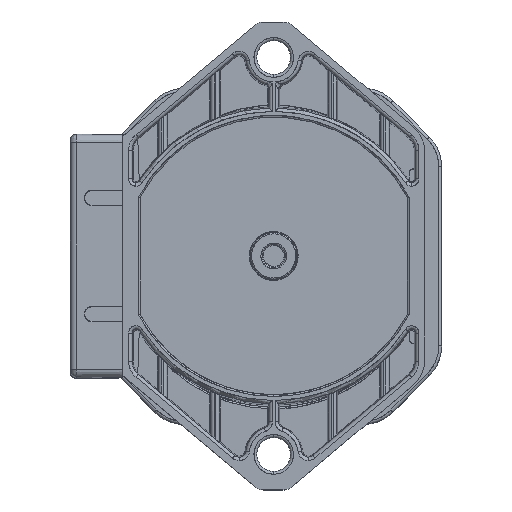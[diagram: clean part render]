
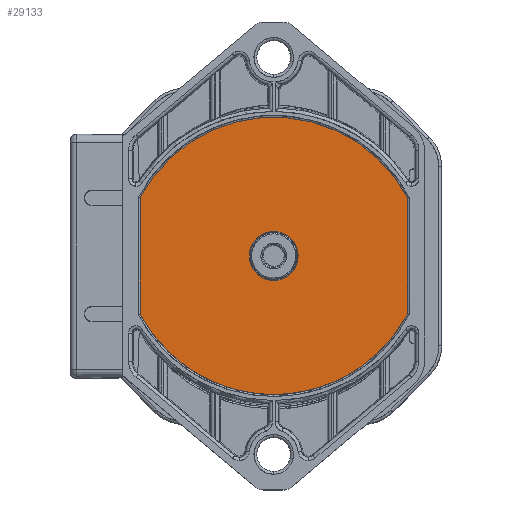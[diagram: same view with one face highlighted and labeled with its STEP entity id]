
A CAD part, top view. The second image highlights one B-rep face of the part: STEP entity #29133.
In plain terms, the highlighted planar face has unit normal (0, 0, 1).
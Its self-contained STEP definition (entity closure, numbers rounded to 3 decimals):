
#152=FACE_BOUND('',#4672,.T.);
#677=B_SPLINE_CURVE_WITH_KNOTS('',3,(#95243,#95244,#95245,#95246,#95247,
#95248,#95249,#95250,#95251,#95252,#95253,#95254,#95255,#95256,#95257,#95258,
#95259,#95260,#95261,#95262,#95263,#95264,#95265,#95266,#95267,#95268,#95269,
#95270,#95271,#95272,#95273,#95274,#95275,#95276,#95277,#95278,#95279,#95280,
#95281,#95282,#95283,#95284,#95285,#95286,#95287,#95288,#95289,#95290,#95291),
 .UNSPECIFIED.,.F.,.F.,(4,3,3,3,3,3,3,3,3,3,3,3,3,3,3,3,4),(0.,0.063,0.125,
0.188,0.25,0.313,0.375,0.438,0.5,0.563,0.625,0.688,0.75,0.813,0.875,
0.938,1.),.UNSPECIFIED.);
#678=B_SPLINE_CURVE_WITH_KNOTS('',3,(#95292,#95293,#95294,#95295,#95296,
#95297,#95298,#95299,#95300,#95301,#95302,#95303,#95304,#95305,#95306,#95307,
#95308,#95309,#95310,#95311,#95312,#95313,#95314,#95315,#95316,#95317,#95318,
#95319,#95320,#95321,#95322,#95323,#95324,#95325,#95326,#95327,#95328,#95329,
#95330,#95331,#95332,#95333,#95334,#95335,#95336,#95337,#95338,#95339,#95340),
 .UNSPECIFIED.,.F.,.F.,(4,3,3,3,3,3,3,3,3,3,3,3,3,3,3,3,4),(0.,0.063,0.125,
0.188,0.25,0.313,0.375,0.438,0.5,0.563,0.625,0.688,0.75,0.813,0.875,
0.938,1.),.UNSPECIFIED.);
#1830=PLANE('',#32942);
#3584=FACE_OUTER_BOUND('',#4671,.T.);
#4671=EDGE_LOOP('',(#25599,#25600,#25601,#25602));
#4672=EDGE_LOOP('',(#25603,#25604));
#6549=LINE('',#95235,#9371);
#6550=LINE('',#95239,#9372);
#9371=VECTOR('',#37959,20.);
#9372=VECTOR('',#37962,20.);
#11524=CIRCLE('',#32943,26.);
#11525=CIRCLE('',#32944,26.);
#14885=VERTEX_POINT('',#95233);
#14886=VERTEX_POINT('',#95234);
#14887=VERTEX_POINT('',#95236);
#14888=VERTEX_POINT('',#95238);
#14889=VERTEX_POINT('',#95241);
#14890=VERTEX_POINT('',#95242);
#20242=EDGE_CURVE('',#14885,#14886,#6549,.T.);
#20243=EDGE_CURVE('',#14886,#14887,#11524,.T.);
#20244=EDGE_CURVE('',#14887,#14888,#6550,.T.);
#20245=EDGE_CURVE('',#14888,#14885,#11525,.T.);
#20246=EDGE_CURVE('',#14889,#14890,#677,.T.);
#20247=EDGE_CURVE('',#14890,#14889,#678,.T.);
#25599=ORIENTED_EDGE('',*,*,#20242,.T.);
#25600=ORIENTED_EDGE('',*,*,#20243,.T.);
#25601=ORIENTED_EDGE('',*,*,#20244,.T.);
#25602=ORIENTED_EDGE('',*,*,#20245,.T.);
#25603=ORIENTED_EDGE('',*,*,#20246,.T.);
#25604=ORIENTED_EDGE('',*,*,#20247,.T.);
#29133=ADVANCED_FACE('',(#3584,#152),#1830,.T.);
#32942=AXIS2_PLACEMENT_3D('',#95232,#37957,#37958);
#32943=AXIS2_PLACEMENT_3D('',#95237,#37960,#37961);
#32944=AXIS2_PLACEMENT_3D('',#95240,#37963,#37964);
#37957=DIRECTION('center_axis',(0.,0.,1.));
#37958=DIRECTION('ref_axis',(1.,0.,0.));
#37959=DIRECTION('',(0.,-1.,0.));
#37960=DIRECTION('center_axis',(0.,0.,1.));
#37961=DIRECTION('ref_axis',(1.,0.,0.));
#37962=DIRECTION('',(0.,1.,0.));
#37963=DIRECTION('center_axis',(0.,0.,1.));
#37964=DIRECTION('ref_axis',(1.,0.,0.));
#95232=CARTESIAN_POINT('Origin',(-23.,0.,44.7));
#95233=CARTESIAN_POINT('',(-23.,10.,44.7));
#95234=CARTESIAN_POINT('',(-23.,-10.,44.7));
#95235=CARTESIAN_POINT('',(-23.,10.,44.7));
#95236=CARTESIAN_POINT('',(23.,-10.,44.7));
#95237=CARTESIAN_POINT('Origin',(0.,2.124,44.7));
#95238=CARTESIAN_POINT('',(23.,10.,44.7));
#95239=CARTESIAN_POINT('',(23.,-10.,44.7));
#95240=CARTESIAN_POINT('Origin',(0.,-2.124,44.7));
#95241=CARTESIAN_POINT('',(0.,-4.2,44.7));
#95242=CARTESIAN_POINT('',(0.,4.2,44.7));
#95243=CARTESIAN_POINT('Ctrl Pts',(0.,-4.2,44.7));
#95244=CARTESIAN_POINT('Ctrl Pts',(-0.276,-4.2,
44.7));
#95245=CARTESIAN_POINT('Ctrl Pts',(-0.549,-4.173,
44.7));
#95246=CARTESIAN_POINT('Ctrl Pts',(-0.819,-4.119,
44.7));
#95247=CARTESIAN_POINT('Ctrl Pts',(-1.09,-4.066,
44.7));
#95248=CARTESIAN_POINT('Ctrl Pts',(-1.352,-3.986,44.7));
#95249=CARTESIAN_POINT('Ctrl Pts',(-1.607,-3.88,44.7));
#95250=CARTESIAN_POINT('Ctrl Pts',(-1.862,-3.775,
44.7));
#95251=CARTESIAN_POINT('Ctrl Pts',(-2.104,-3.646,44.7));
#95252=CARTESIAN_POINT('Ctrl Pts',(-2.333,-3.492,44.7));
#95253=CARTESIAN_POINT('Ctrl Pts',(-2.562,-3.339,44.7));
#95254=CARTESIAN_POINT('Ctrl Pts',(-2.775,-3.165,44.7));
#95255=CARTESIAN_POINT('Ctrl Pts',(-2.97,-2.97,44.7));
#95256=CARTESIAN_POINT('Ctrl Pts',(-3.165,-2.775,
44.7));
#95257=CARTESIAN_POINT('Ctrl Pts',(-3.339,-2.563,44.7));
#95258=CARTESIAN_POINT('Ctrl Pts',(-3.492,-2.333,44.7));
#95259=CARTESIAN_POINT('Ctrl Pts',(-3.645,-2.104,
44.7));
#95260=CARTESIAN_POINT('Ctrl Pts',(-3.775,-1.862,
44.7));
#95261=CARTESIAN_POINT('Ctrl Pts',(-3.88,-1.607,44.7));
#95262=CARTESIAN_POINT('Ctrl Pts',(-3.986,-1.353,
44.7));
#95263=CARTESIAN_POINT('Ctrl Pts',(-4.065,-1.09,
44.7));
#95264=CARTESIAN_POINT('Ctrl Pts',(-4.119,-0.819,44.7));
#95265=CARTESIAN_POINT('Ctrl Pts',(-4.173,-0.549,44.7));
#95266=CARTESIAN_POINT('Ctrl Pts',(-4.2,-0.276,44.7));
#95267=CARTESIAN_POINT('Ctrl Pts',(-4.2,0.,44.7));
#95268=CARTESIAN_POINT('Ctrl Pts',(-4.2,0.275,44.7));
#95269=CARTESIAN_POINT('Ctrl Pts',(-4.173,0.549,44.7));
#95270=CARTESIAN_POINT('Ctrl Pts',(-4.119,0.819,44.7));
#95271=CARTESIAN_POINT('Ctrl Pts',(-4.066,1.09,44.7));
#95272=CARTESIAN_POINT('Ctrl Pts',(-3.986,1.352,44.7));
#95273=CARTESIAN_POINT('Ctrl Pts',(-3.88,1.607,44.7));
#95274=CARTESIAN_POINT('Ctrl Pts',(-3.775,1.862,44.7));
#95275=CARTESIAN_POINT('Ctrl Pts',(-3.646,2.104,44.7));
#95276=CARTESIAN_POINT('Ctrl Pts',(-3.492,2.333,44.7));
#95277=CARTESIAN_POINT('Ctrl Pts',(-3.339,2.562,44.7));
#95278=CARTESIAN_POINT('Ctrl Pts',(-3.165,2.775,44.7));
#95279=CARTESIAN_POINT('Ctrl Pts',(-2.97,2.97,44.7));
#95280=CARTESIAN_POINT('Ctrl Pts',(-2.775,3.165,44.7));
#95281=CARTESIAN_POINT('Ctrl Pts',(-2.563,3.339,44.7));
#95282=CARTESIAN_POINT('Ctrl Pts',(-2.333,3.492,44.7));
#95283=CARTESIAN_POINT('Ctrl Pts',(-2.104,3.645,44.7));
#95284=CARTESIAN_POINT('Ctrl Pts',(-1.862,3.775,44.7));
#95285=CARTESIAN_POINT('Ctrl Pts',(-1.607,3.88,44.7));
#95286=CARTESIAN_POINT('Ctrl Pts',(-1.353,3.986,44.7));
#95287=CARTESIAN_POINT('Ctrl Pts',(-1.09,4.065,44.7));
#95288=CARTESIAN_POINT('Ctrl Pts',(-0.819,4.119,
44.7));
#95289=CARTESIAN_POINT('Ctrl Pts',(-0.549,4.173,44.7));
#95290=CARTESIAN_POINT('Ctrl Pts',(-0.276,4.2,
44.7));
#95291=CARTESIAN_POINT('Ctrl Pts',(0.,4.2,44.7));
#95292=CARTESIAN_POINT('Ctrl Pts',(0.,4.2,44.7));
#95293=CARTESIAN_POINT('Ctrl Pts',(0.276,4.2,44.7));
#95294=CARTESIAN_POINT('Ctrl Pts',(0.549,4.173,44.7));
#95295=CARTESIAN_POINT('Ctrl Pts',(0.819,4.119,44.7));
#95296=CARTESIAN_POINT('Ctrl Pts',(1.09,4.066,44.7));
#95297=CARTESIAN_POINT('Ctrl Pts',(1.352,3.986,44.7));
#95298=CARTESIAN_POINT('Ctrl Pts',(1.607,3.88,44.7));
#95299=CARTESIAN_POINT('Ctrl Pts',(1.862,3.775,44.7));
#95300=CARTESIAN_POINT('Ctrl Pts',(2.104,3.646,44.7));
#95301=CARTESIAN_POINT('Ctrl Pts',(2.333,3.492,44.7));
#95302=CARTESIAN_POINT('Ctrl Pts',(2.562,3.339,44.7));
#95303=CARTESIAN_POINT('Ctrl Pts',(2.775,3.165,44.7));
#95304=CARTESIAN_POINT('Ctrl Pts',(2.97,2.97,44.7));
#95305=CARTESIAN_POINT('Ctrl Pts',(3.165,2.775,44.7));
#95306=CARTESIAN_POINT('Ctrl Pts',(3.339,2.563,44.7));
#95307=CARTESIAN_POINT('Ctrl Pts',(3.492,2.333,44.7));
#95308=CARTESIAN_POINT('Ctrl Pts',(3.645,2.104,44.7));
#95309=CARTESIAN_POINT('Ctrl Pts',(3.775,1.862,44.7));
#95310=CARTESIAN_POINT('Ctrl Pts',(3.88,1.607,44.7));
#95311=CARTESIAN_POINT('Ctrl Pts',(3.986,1.353,44.7));
#95312=CARTESIAN_POINT('Ctrl Pts',(4.065,1.09,44.7));
#95313=CARTESIAN_POINT('Ctrl Pts',(4.119,0.819,44.7));
#95314=CARTESIAN_POINT('Ctrl Pts',(4.173,0.549,44.7));
#95315=CARTESIAN_POINT('Ctrl Pts',(4.2,0.276,44.7));
#95316=CARTESIAN_POINT('Ctrl Pts',(4.2,0.,44.7));
#95317=CARTESIAN_POINT('Ctrl Pts',(4.2,-0.275,44.7));
#95318=CARTESIAN_POINT('Ctrl Pts',(4.173,-0.549,44.7));
#95319=CARTESIAN_POINT('Ctrl Pts',(4.119,-0.819,44.7));
#95320=CARTESIAN_POINT('Ctrl Pts',(4.066,-1.09,44.7));
#95321=CARTESIAN_POINT('Ctrl Pts',(3.986,-1.352,44.7));
#95322=CARTESIAN_POINT('Ctrl Pts',(3.88,-1.607,44.7));
#95323=CARTESIAN_POINT('Ctrl Pts',(3.775,-1.862,44.7));
#95324=CARTESIAN_POINT('Ctrl Pts',(3.646,-2.104,44.7));
#95325=CARTESIAN_POINT('Ctrl Pts',(3.492,-2.333,44.7));
#95326=CARTESIAN_POINT('Ctrl Pts',(3.339,-2.562,44.7));
#95327=CARTESIAN_POINT('Ctrl Pts',(3.165,-2.775,44.7));
#95328=CARTESIAN_POINT('Ctrl Pts',(2.97,-2.97,44.7));
#95329=CARTESIAN_POINT('Ctrl Pts',(2.775,-3.165,44.7));
#95330=CARTESIAN_POINT('Ctrl Pts',(2.563,-3.339,44.7));
#95331=CARTESIAN_POINT('Ctrl Pts',(2.333,-3.492,44.7));
#95332=CARTESIAN_POINT('Ctrl Pts',(2.104,-3.645,44.7));
#95333=CARTESIAN_POINT('Ctrl Pts',(1.862,-3.775,44.7));
#95334=CARTESIAN_POINT('Ctrl Pts',(1.607,-3.88,44.7));
#95335=CARTESIAN_POINT('Ctrl Pts',(1.353,-3.986,44.7));
#95336=CARTESIAN_POINT('Ctrl Pts',(1.09,-4.065,44.7));
#95337=CARTESIAN_POINT('Ctrl Pts',(0.819,-4.119,
44.7));
#95338=CARTESIAN_POINT('Ctrl Pts',(0.549,-4.173,
44.7));
#95339=CARTESIAN_POINT('Ctrl Pts',(0.276,-4.2,
44.7));
#95340=CARTESIAN_POINT('Ctrl Pts',(0.,-4.2,44.7));
